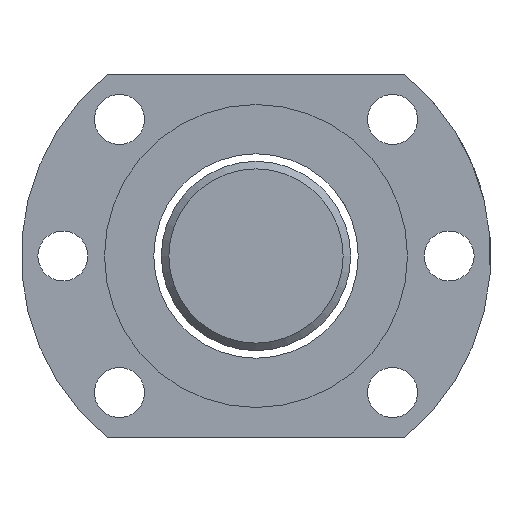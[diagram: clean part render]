
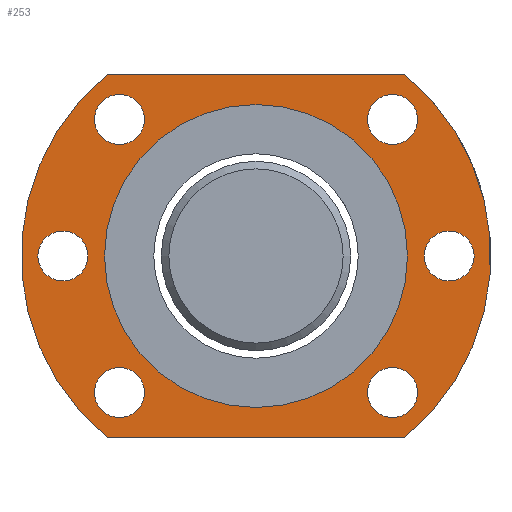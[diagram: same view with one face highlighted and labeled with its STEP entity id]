
A CAD part, left-side view. The second image highlights one B-rep face of the part: STEP entity #253.
In plain terms, the highlighted planar face has unit normal (-1, 0, 0).
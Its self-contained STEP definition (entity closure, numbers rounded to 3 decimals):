
#61 = PLANE ( 'NONE',  #1114 ) ;
#106 = CARTESIAN_POINT ( 'NONE',  ( -103.351, -54.654, -47.318 ) ) ;
#118 = DIRECTION ( 'NONE',  ( 0., 0., -1. ) ) ;
#127 = AXIS2_PLACEMENT_3D ( 'NONE', #150, #2171, #1775 ) ;
#147 = EDGE_LOOP ( 'NONE', ( #2269 ) ) ;
#150 = CARTESIAN_POINT ( 'NONE',  ( -103.351, -47.186, -29.287 ) ) ;
#192 = DIRECTION ( 'NONE',  ( -1., 0., 0. ) ) ;
#218 = EDGE_LOOP ( 'NONE', ( #1146 ) ) ;
#226 = EDGE_CURVE ( 'NONE', #936, #1656, #1090, .T. ) ;
#248 = DIRECTION ( 'NONE',  ( -1., 0., 0. ) ) ;
#253 = ADVANCED_FACE ( 'NONE', ( #1684, #1435, #620, #2481, #1856, #1643, #680, #2227 ), #61, .T. ) ;
#260 = ORIENTED_EDGE ( 'NONE', *, *, #1607, .T. ) ;
#267 = VERTEX_POINT ( 'NONE', #1283 ) ;
#299 = AXIS2_PLACEMENT_3D ( 'NONE', #1504, #1113, #118 ) ;
#390 = DIRECTION ( 'NONE',  ( -1., 0., 0. ) ) ;
#431 = CIRCLE ( 'NONE', #768, 3.3 ) ;
#465 = DIRECTION ( 'NONE',  ( 0., 0., 1. ) ) ;
#480 = DIRECTION ( 'NONE',  ( 0., 0., 1. ) ) ;
#501 = CARTESIAN_POINT ( 'NONE',  ( -103.351, -3.654, -44.018 ) ) ;
#503 = CARTESIAN_POINT ( 'NONE',  ( -103.351, -9.533, -71.318 ) ) ;
#515 = EDGE_CURVE ( 'NONE', #2024, #2024, #731, .T. ) ;
#529 = EDGE_LOOP ( 'NONE', ( #1927 ) ) ;
#600 = AXIS2_PLACEMENT_3D ( 'NONE', #1800, #192, #1179 ) ;
#619 = VERTEX_POINT ( 'NONE', #1162 ) ;
#620 = FACE_OUTER_BOUND ( 'NONE', #2550, .T. ) ;
#621 = CARTESIAN_POINT ( 'NONE',  ( -103.351, -48.776, -23.318 ) ) ;
#639 = VERTEX_POINT ( 'NONE', #1456 ) ;
#640 = CIRCLE ( 'NONE', #895, 3.3 ) ;
#646 = CIRCLE ( 'NONE', #299, 31. ) ;
#653 = AXIS2_PLACEMENT_3D ( 'NONE', #106, #1741, #1696 ) ;
#675 = EDGE_CURVE ( 'NONE', #639, #639, #1918, .T. ) ;
#680 = FACE_BOUND ( 'NONE', #1879, .T. ) ;
#692 = VECTOR ( 'NONE', #2072, 1000. ) ;
#695 = AXIS2_PLACEMENT_3D ( 'NONE', #1214, #2197, #2367 ) ;
#707 = CARTESIAN_POINT ( 'NONE',  ( -103.351, -11.123, -62.049 ) ) ;
#720 = EDGE_CURVE ( 'NONE', #619, #936, #2372, .T. ) ;
#726 = CARTESIAN_POINT ( 'NONE',  ( -103.351, -11.123, -65.349 ) ) ;
#731 = CIRCLE ( 'NONE', #653, 3.3 ) ;
#768 = AXIS2_PLACEMENT_3D ( 'NONE', #1477, #248, #465 ) ;
#895 = AXIS2_PLACEMENT_3D ( 'NONE', #726, #1381, #1395 ) ;
#904 = ORIENTED_EDGE ( 'NONE', *, *, #1957, .T. ) ;
#936 = VERTEX_POINT ( 'NONE', #503 ) ;
#951 = CARTESIAN_POINT ( 'NONE',  ( -103.351, -29.154, -47.318 ) ) ;
#976 = ORIENTED_EDGE ( 'NONE', *, *, #226, .T. ) ;
#1090 = LINE ( 'NONE', #1252, #692 ) ;
#1099 = EDGE_LOOP ( 'NONE', ( #1378 ) ) ;
#1113 = DIRECTION ( 'NONE',  ( -1., 0., 0. ) ) ;
#1114 = AXIS2_PLACEMENT_3D ( 'NONE', #1290, #1491, #480 ) ;
#1117 = CIRCLE ( 'NONE', #127, 3.3 ) ;
#1137 = EDGE_CURVE ( 'NONE', #267, #267, #2041, .T. ) ;
#1146 = ORIENTED_EDGE ( 'NONE', *, *, #675, .F. ) ;
#1155 = AXIS2_PLACEMENT_3D ( 'NONE', #951, #390, #1991 ) ;
#1162 = CARTESIAN_POINT ( 'NONE',  ( -103.351, -9.533, -23.318 ) ) ;
#1167 = CARTESIAN_POINT ( 'NONE',  ( -103.351, -47.186, -65.349 ) ) ;
#1179 = DIRECTION ( 'NONE',  ( 0., 0., -1. ) ) ;
#1214 = CARTESIAN_POINT ( 'NONE',  ( -103.351, -11.123, -29.287 ) ) ;
#1252 = CARTESIAN_POINT ( 'NONE',  ( -103.351, -9.533, -71.318 ) ) ;
#1260 = EDGE_CURVE ( 'NONE', #1720, #1720, #1464, .T. ) ;
#1283 = CARTESIAN_POINT ( 'NONE',  ( -103.351, -29.154, -67.318 ) ) ;
#1290 = CARTESIAN_POINT ( 'NONE',  ( -103.351, -29.154, -47.318 ) ) ;
#1332 = VERTEX_POINT ( 'NONE', #2101 ) ;
#1338 = EDGE_LOOP ( 'NONE', ( #2394 ) ) ;
#1344 = EDGE_CURVE ( 'NONE', #1332, #1332, #1117, .T. ) ;
#1378 = ORIENTED_EDGE ( 'NONE', *, *, #1137, .F. ) ;
#1381 = DIRECTION ( 'NONE',  ( -1., 0., 0. ) ) ;
#1384 = DIRECTION ( 'NONE',  ( 0., 0., 1. ) ) ;
#1395 = DIRECTION ( 'NONE',  ( 0., 0., 1. ) ) ;
#1435 = FACE_BOUND ( 'NONE', #1099, .T. ) ;
#1448 = ORIENTED_EDGE ( 'NONE', *, *, #1260, .T. ) ;
#1456 = CARTESIAN_POINT ( 'NONE',  ( -103.351, -11.123, -25.987 ) ) ;
#1464 = CIRCLE ( 'NONE', #2498, 3.3 ) ;
#1477 = CARTESIAN_POINT ( 'NONE',  ( -103.351, -3.654, -47.318 ) ) ;
#1491 = DIRECTION ( 'NONE',  ( -1., 0., 0. ) ) ;
#1504 = CARTESIAN_POINT ( 'NONE',  ( -103.351, -29.154, -47.318 ) ) ;
#1607 = EDGE_CURVE ( 'NONE', #2325, #619, #1827, .T. ) ;
#1643 = FACE_BOUND ( 'NONE', #2365, .T. ) ;
#1656 = VERTEX_POINT ( 'NONE', #2271 ) ;
#1672 = DIRECTION ( 'NONE',  ( 0., 1., 0. ) ) ;
#1684 = FACE_BOUND ( 'NONE', #1338, .T. ) ;
#1696 = DIRECTION ( 'NONE',  ( 0., 0., 1. ) ) ;
#1720 = VERTEX_POINT ( 'NONE', #2307 ) ;
#1741 = DIRECTION ( 'NONE',  ( 1., 0., 0. ) ) ;
#1775 = DIRECTION ( 'NONE',  ( 0., 0., 1. ) ) ;
#1800 = CARTESIAN_POINT ( 'NONE',  ( -103.351, -29.154, -47.318 ) ) ;
#1827 = LINE ( 'NONE', #621, #1997 ) ;
#1831 = CARTESIAN_POINT ( 'NONE',  ( -103.351, -54.654, -44.018 ) ) ;
#1856 = FACE_BOUND ( 'NONE', #218, .T. ) ;
#1879 = EDGE_LOOP ( 'NONE', ( #1448 ) ) ;
#1908 = VERTEX_POINT ( 'NONE', #501 ) ;
#1915 = ORIENTED_EDGE ( 'NONE', *, *, #2194, .F. ) ;
#1918 = CIRCLE ( 'NONE', #695, 3.3 ) ;
#1927 = ORIENTED_EDGE ( 'NONE', *, *, #1344, .T. ) ;
#1957 = EDGE_CURVE ( 'NONE', #1656, #2325, #646, .T. ) ;
#1991 = DIRECTION ( 'NONE',  ( 0., 0., -1. ) ) ;
#1997 = VECTOR ( 'NONE', #1672, 1000. ) ;
#2024 = VERTEX_POINT ( 'NONE', #1831 ) ;
#2041 = CIRCLE ( 'NONE', #600, 20. ) ;
#2072 = DIRECTION ( 'NONE',  ( 0., -1., 0. ) ) ;
#2097 = EDGE_CURVE ( 'NONE', #1908, #1908, #431, .T. ) ;
#2101 = CARTESIAN_POINT ( 'NONE',  ( -103.351, -47.186, -25.987 ) ) ;
#2139 = ORIENTED_EDGE ( 'NONE', *, *, #720, .T. ) ;
#2159 = DIRECTION ( 'NONE',  ( 1., 0., 0. ) ) ;
#2171 = DIRECTION ( 'NONE',  ( 1., 0., 0. ) ) ;
#2182 = CARTESIAN_POINT ( 'NONE',  ( -103.351, -48.776, -23.318 ) ) ;
#2194 = EDGE_CURVE ( 'NONE', #2518, #2518, #640, .T. ) ;
#2197 = DIRECTION ( 'NONE',  ( -1., 0., 0. ) ) ;
#2227 = FACE_BOUND ( 'NONE', #529, .T. ) ;
#2269 = ORIENTED_EDGE ( 'NONE', *, *, #2097, .F. ) ;
#2271 = CARTESIAN_POINT ( 'NONE',  ( -103.351, -48.776, -71.318 ) ) ;
#2307 = CARTESIAN_POINT ( 'NONE',  ( -103.351, -47.186, -62.049 ) ) ;
#2325 = VERTEX_POINT ( 'NONE', #2182 ) ;
#2365 = EDGE_LOOP ( 'NONE', ( #1915 ) ) ;
#2367 = DIRECTION ( 'NONE',  ( 0., 0., 1. ) ) ;
#2372 = CIRCLE ( 'NONE', #1155, 31. ) ;
#2394 = ORIENTED_EDGE ( 'NONE', *, *, #515, .T. ) ;
#2481 = FACE_BOUND ( 'NONE', #147, .T. ) ;
#2498 = AXIS2_PLACEMENT_3D ( 'NONE', #1167, #2159, #1384 ) ;
#2518 = VERTEX_POINT ( 'NONE', #707 ) ;
#2550 = EDGE_LOOP ( 'NONE', ( #2139, #976, #904, #260 ) ) ;
